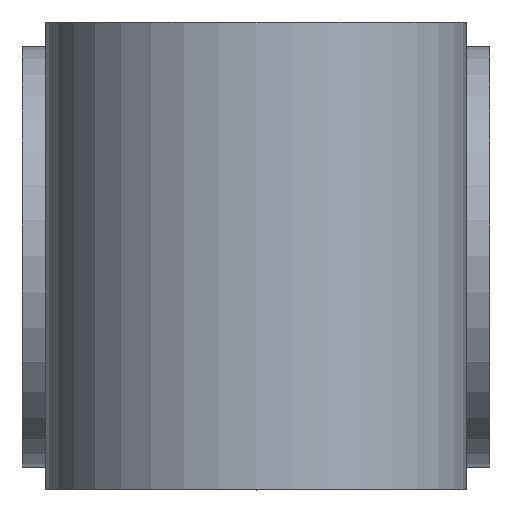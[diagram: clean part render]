
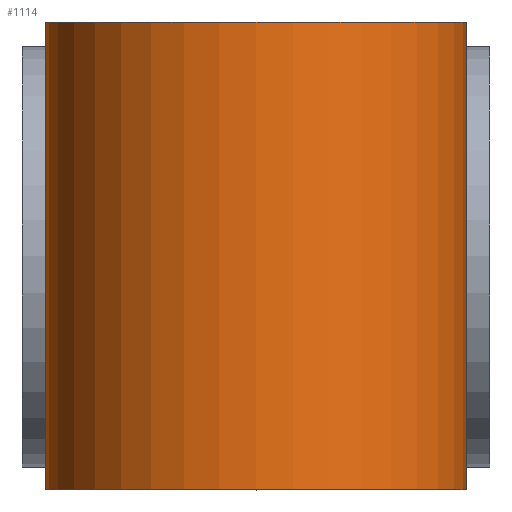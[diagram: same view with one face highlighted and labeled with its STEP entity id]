
A CAD part, top view. The second image highlights one B-rep face of the part: STEP entity #1114.
In plain terms, the highlighted cylindrical face has radius 3.6 mm (diameter 7.2 mm), a full revolution.
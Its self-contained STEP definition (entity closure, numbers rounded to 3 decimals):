
#91=LINE('',#1762,#177);
#92=LINE('',#1763,#178);
#93=LINE('',#1764,#179);
#94=LINE('',#1765,#180);
#95=LINE('',#1766,#181);
#96=LINE('',#1767,#182);
#177=VECTOR('',#1392,1000.);
#178=VECTOR('',#1393,1000.);
#179=VECTOR('',#1394,1000.);
#180=VECTOR('',#1395,1000.);
#181=VECTOR('',#1396,1000.);
#182=VECTOR('',#1397,1000.);
#295=ORIENTED_EDGE('',*,*,#617,.T.);
#296=ORIENTED_EDGE('',*,*,#612,.T.);
#297=ORIENTED_EDGE('',*,*,#618,.T.);
#298=ORIENTED_EDGE('',*,*,#578,.T.);
#299=ORIENTED_EDGE('',*,*,#619,.T.);
#300=ORIENTED_EDGE('',*,*,#609,.T.);
#301=ORIENTED_EDGE('',*,*,#620,.F.);
#302=ORIENTED_EDGE('',*,*,#606,.F.);
#303=ORIENTED_EDGE('',*,*,#621,.T.);
#304=ORIENTED_EDGE('',*,*,#584,.F.);
#305=ORIENTED_EDGE('',*,*,#622,.T.);
#306=ORIENTED_EDGE('',*,*,#615,.F.);
#307=ORIENTED_EDGE('',*,*,#623,.T.);
#308=ORIENTED_EDGE('',*,*,#624,.F.);
#578=EDGE_CURVE('',#744,#743,#852,.T.);
#584=EDGE_CURVE('',#749,#750,#854,.T.);
#606=EDGE_CURVE('',#766,#762,#860,.T.);
#609=EDGE_CURVE('',#769,#768,#861,.T.);
#612=EDGE_CURVE('',#771,#770,#864,.T.);
#615=EDGE_CURVE('',#772,#773,#865,.T.);
#617=EDGE_CURVE('',#772,#771,#91,.T.);
#618=EDGE_CURVE('',#770,#744,#92,.F.);
#619=EDGE_CURVE('',#743,#769,#93,.T.);
#620=EDGE_CURVE('',#762,#768,#94,.T.);
#621=EDGE_CURVE('',#766,#750,#95,.T.);
#622=EDGE_CURVE('',#749,#773,#96,.F.);
#623=EDGE_CURVE('',#774,#774,#867,.T.);
#624=EDGE_CURVE('',#775,#775,#868,.T.);
#743=VERTEX_POINT('',#1667);
#744=VERTEX_POINT('',#1669);
#749=VERTEX_POINT('',#1687);
#750=VERTEX_POINT('',#1688);
#762=VERTEX_POINT('',#1731);
#766=VERTEX_POINT('',#1739);
#768=VERTEX_POINT('',#1745);
#769=VERTEX_POINT('',#1747);
#770=VERTEX_POINT('',#1751);
#771=VERTEX_POINT('',#1753);
#772=VERTEX_POINT('',#1757);
#773=VERTEX_POINT('',#1759);
#774=VERTEX_POINT('',#1769);
#775=VERTEX_POINT('',#1771);
#852=CIRCLE('',#1187,3.6);
#854=CIRCLE('',#1190,3.6);
#860=CIRCLE('',#1200,3.6);
#861=CIRCLE('',#1202,3.6);
#864=CIRCLE('',#1206,3.6);
#865=CIRCLE('',#1208,3.6);
#867=CIRCLE('',#1211,3.6);
#868=CIRCLE('',#1212,3.6);
#922=EDGE_LOOP('',(#295,#296,#297,#298,#299,#300,#301,#302,#303,#304,#305,
#306));
#923=EDGE_LOOP('',(#307));
#924=EDGE_LOOP('',(#308));
#1003=FACE_BOUND('',#922,.T.);
#1004=FACE_BOUND('',#923,.T.);
#1005=FACE_BOUND('',#924,.T.);
#1074=CYLINDRICAL_SURFACE('',#1210,3.6);
#1114=ADVANCED_FACE('',(#1003,#1004,#1005),#1074,.T.);
#1187=AXIS2_PLACEMENT_3D('',#1668,#1325,#1326);
#1190=AXIS2_PLACEMENT_3D('',#1686,#1333,#1334);
#1200=AXIS2_PLACEMENT_3D('',#1740,#1366,#1367);
#1202=AXIS2_PLACEMENT_3D('',#1746,#1372,#1373);
#1206=AXIS2_PLACEMENT_3D('',#1752,#1380,#1381);
#1208=AXIS2_PLACEMENT_3D('',#1758,#1386,#1387);
#1210=AXIS2_PLACEMENT_3D('',#1761,#1390,#1391);
#1211=AXIS2_PLACEMENT_3D('',#1768,#1398,#1399);
#1212=AXIS2_PLACEMENT_3D('',#1770,#1400,#1401);
#1325=DIRECTION('',(0.,-1.,0.));
#1326=DIRECTION('',(1.,0.,0.));
#1333=DIRECTION('',(0.,-1.,0.));
#1334=DIRECTION('',(-1.,0.,0.));
#1366=DIRECTION('',(0.,-1.,0.));
#1367=DIRECTION('',(0.,0.,-1.));
#1372=DIRECTION('',(0.,-1.,0.));
#1373=DIRECTION('',(0.,0.,-1.));
#1380=DIRECTION('',(0.,-1.,0.));
#1381=DIRECTION('',(0.,0.,-1.));
#1386=DIRECTION('',(0.,-1.,0.));
#1387=DIRECTION('',(0.,0.,-1.));
#1390=DIRECTION('',(0.,-1.,0.));
#1391=DIRECTION('',(0.,0.,-1.));
#1392=DIRECTION('',(0.,-1.,0.));
#1393=DIRECTION('',(0.,-1.,0.));
#1394=DIRECTION('',(0.,-1.,0.));
#1395=DIRECTION('',(0.,-1.,0.));
#1396=DIRECTION('',(0.,-1.,0.));
#1397=DIRECTION('',(0.,-1.,0.));
#1398=DIRECTION('',(0.,1.,0.));
#1399=DIRECTION('',(1.,0.,0.));
#1400=DIRECTION('',(0.,1.,0.));
#1401=DIRECTION('',(1.,0.,0.));
#1667=CARTESIAN_POINT('',(2.022,3.1,-2.978));
#1668=CARTESIAN_POINT('',(0.,3.1,0.));
#1669=CARTESIAN_POINT('',(-2.02,3.1,-2.98));
#1686=CARTESIAN_POINT('',(0.,4.9,0.));
#1687=CARTESIAN_POINT('',(-2.02,4.9,-2.98));
#1688=CARTESIAN_POINT('',(2.021,4.9,-2.979));
#1731=CARTESIAN_POINT('',(3.6,7.6,0.));
#1739=CARTESIAN_POINT('',(2.021,7.6,-2.979));
#1740=CARTESIAN_POINT('',(0.,7.6,0.));
#1745=CARTESIAN_POINT('',(3.6,0.4,0.));
#1746=CARTESIAN_POINT('',(0.,0.4,0.));
#1747=CARTESIAN_POINT('',(2.022,0.4,-2.978));
#1751=CARTESIAN_POINT('',(-2.02,0.4,-2.98));
#1752=CARTESIAN_POINT('',(0.,0.4,0.));
#1753=CARTESIAN_POINT('',(-3.6,0.4,0.));
#1757=CARTESIAN_POINT('',(-3.6,7.6,0.));
#1758=CARTESIAN_POINT('',(0.,7.6,0.));
#1759=CARTESIAN_POINT('',(-2.02,7.6,-2.98));
#1761=CARTESIAN_POINT('',(0.,8.,0.));
#1762=CARTESIAN_POINT('',(-3.6,37.6,0.));
#1763=CARTESIAN_POINT('',(-2.02,8.,-2.98));
#1764=CARTESIAN_POINT('',(2.022,8.,-2.978));
#1765=CARTESIAN_POINT('',(3.6,37.6,0.));
#1766=CARTESIAN_POINT('',(2.021,8.,-2.979));
#1767=CARTESIAN_POINT('',(-2.02,8.,-2.98));
#1768=CARTESIAN_POINT('',(0.,0.,0.));
#1769=CARTESIAN_POINT('',(3.6,0.,0.));
#1770=CARTESIAN_POINT('',(0.,8.,0.));
#1771=CARTESIAN_POINT('',(3.6,8.,0.));
